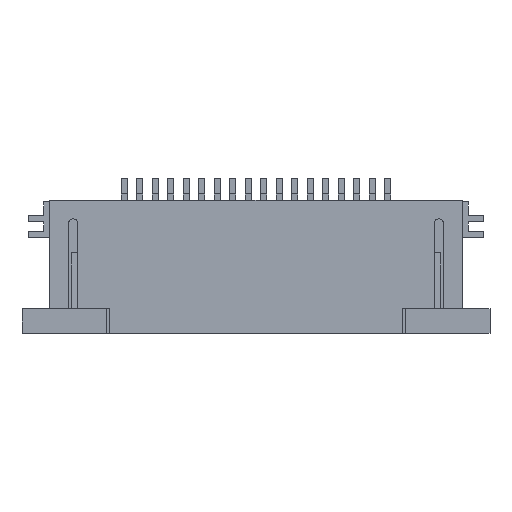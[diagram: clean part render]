
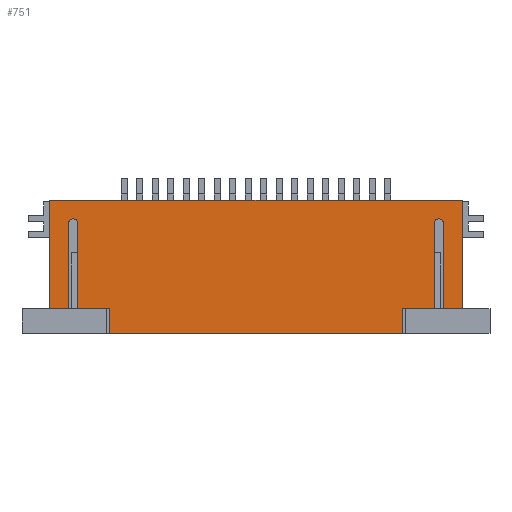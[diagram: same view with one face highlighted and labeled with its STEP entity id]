
A CAD part, top view. The second image highlights one B-rep face of the part: STEP entity #751.
In plain terms, the highlighted planar face has unit normal (0, 0, 1).
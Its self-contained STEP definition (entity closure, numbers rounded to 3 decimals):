
#114=CIRCLE('',#9331,0.15);
#115=CIRCLE('',#9332,0.15);
#312=FACE_OUTER_BOUND('',#1616,.T.);
#751=ADVANCED_FACE('',(#312),#1171,.T.);
#1171=PLANE('',#9333);
#1616=EDGE_LOOP('',(#3052,#3053,#3054,#3055,#3056,#3057,#3058,#3059,#3060,
#3061,#3062,#3063,#3064,#3065,#3066,#3067,#3068,#3069));
#3052=ORIENTED_EDGE('',*,*,#5857,.F.);
#3053=ORIENTED_EDGE('',*,*,#6111,.F.);
#3054=ORIENTED_EDGE('',*,*,#6112,.F.);
#3055=ORIENTED_EDGE('',*,*,#5386,.F.);
#3056=ORIENTED_EDGE('',*,*,#5936,.F.);
#3057=ORIENTED_EDGE('',*,*,#6113,.T.);
#3058=ORIENTED_EDGE('',*,*,#5927,.T.);
#3059=ORIENTED_EDGE('',*,*,#5445,.F.);
#3060=ORIENTED_EDGE('',*,*,#6114,.F.);
#3061=ORIENTED_EDGE('',*,*,#6115,.F.);
#3062=ORIENTED_EDGE('',*,*,#6116,.F.);
#3063=ORIENTED_EDGE('',*,*,#5424,.F.);
#3064=ORIENTED_EDGE('',*,*,#5938,.F.);
#3065=ORIENTED_EDGE('',*,*,#6117,.T.);
#3066=ORIENTED_EDGE('',*,*,#6118,.T.);
#3067=ORIENTED_EDGE('',*,*,#6119,.T.);
#3068=ORIENTED_EDGE('',*,*,#5942,.F.);
#3069=ORIENTED_EDGE('',*,*,#5393,.F.);
#4520=VERTEX_POINT('',#11920);
#4521=VERTEX_POINT('',#11922);
#4526=VERTEX_POINT('',#11933);
#4528=VERTEX_POINT('',#11936);
#4558=VERTEX_POINT('',#12000);
#4559=VERTEX_POINT('',#12001);
#4579=VERTEX_POINT('',#12041);
#4580=VERTEX_POINT('',#12043);
#4848=VERTEX_POINT('',#12856);
#4901=VERTEX_POINT('',#12993);
#4908=VERTEX_POINT('',#13009);
#4909=VERTEX_POINT('',#13014);
#4912=VERTEX_POINT('',#13022);
#5049=VERTEX_POINT('',#13335);
#5050=VERTEX_POINT('',#13339);
#5051=VERTEX_POINT('',#13341);
#5052=VERTEX_POINT('',#13344);
#5053=VERTEX_POINT('',#13346);
#5386=EDGE_CURVE('',#4520,#4521,#6688,.T.);
#5393=EDGE_CURVE('',#4526,#4528,#6695,.T.);
#5424=EDGE_CURVE('',#4558,#4559,#6726,.T.);
#5445=EDGE_CURVE('',#4579,#4580,#6747,.T.);
#5857=EDGE_CURVE('',#4848,#4526,#7123,.T.);
#5927=EDGE_CURVE('',#4901,#4580,#7191,.T.);
#5936=EDGE_CURVE('',#4908,#4520,#7200,.T.);
#5938=EDGE_CURVE('',#4909,#4558,#7202,.T.);
#5942=EDGE_CURVE('',#4528,#4912,#7206,.T.);
#6111=EDGE_CURVE('',#5049,#4848,#114,.T.);
#6112=EDGE_CURVE('',#4521,#5049,#7373,.T.);
#6113=EDGE_CURVE('',#4908,#4901,#7374,.T.);
#6114=EDGE_CURVE('',#5050,#4579,#7375,.T.);
#6115=EDGE_CURVE('',#5051,#5050,#115,.T.);
#6116=EDGE_CURVE('',#4559,#5051,#7376,.T.);
#6117=EDGE_CURVE('',#4909,#5052,#7377,.T.);
#6118=EDGE_CURVE('',#5052,#5053,#7378,.T.);
#6119=EDGE_CURVE('',#5053,#4912,#7379,.T.);
#6688=LINE('',#11921,#7910);
#6695=LINE('',#11935,#7917);
#6726=LINE('',#11999,#7948);
#6747=LINE('',#12042,#7969);
#7123=LINE('',#12857,#8345);
#7191=LINE('',#12992,#8413);
#7200=LINE('',#13010,#8422);
#7202=LINE('',#13013,#8424);
#7206=LINE('',#13021,#8428);
#7373=LINE('',#13336,#8595);
#7374=LINE('',#13337,#8596);
#7375=LINE('',#13338,#8597);
#7376=LINE('',#13342,#8598);
#7377=LINE('',#13343,#8599);
#7378=LINE('',#13345,#8600);
#7379=LINE('',#13347,#8601);
#7910=VECTOR('',#9655,1.);
#7917=VECTOR('',#9662,1.);
#7948=VECTOR('',#9699,1.);
#7969=VECTOR('',#9720,1.);
#8345=VECTOR('',#10436,1.);
#8413=VECTOR('',#10534,1.);
#8422=VECTOR('',#10545,1.);
#8424=VECTOR('',#10549,1.);
#8428=VECTOR('',#10555,1.);
#8595=VECTOR('',#10742,1.);
#8596=VECTOR('',#10743,1.);
#8597=VECTOR('',#10744,1.);
#8598=VECTOR('',#10747,1.);
#8599=VECTOR('',#10748,1.);
#8600=VECTOR('',#10749,1.);
#8601=VECTOR('',#10750,1.);
#9331=AXIS2_PLACEMENT_3D('',#13334,#10740,#10741);
#9332=AXIS2_PLACEMENT_3D('',#13340,#10745,#10746);
#9333=AXIS2_PLACEMENT_3D('',#13348,#10751,#10752);
#9655=DIRECTION('',(-1.,0.,0.));
#9662=DIRECTION('',(-1.,0.,0.));
#9699=DIRECTION('',(-1.,0.,0.));
#9720=DIRECTION('',(-1.,0.,0.));
#10436=DIRECTION('',(0.,-1.,0.));
#10534=DIRECTION('',(0.,-1.,0.));
#10545=DIRECTION('',(0.,-1.,0.));
#10549=DIRECTION('',(-1.,0.,0.));
#10555=DIRECTION('',(-1.,0.,0.));
#10740=DIRECTION('',(0.,0.,1.));
#10741=DIRECTION('',(1.,0.,0.));
#10742=DIRECTION('',(0.,1.,0.));
#10743=DIRECTION('',(-1.,0.,0.));
#10744=DIRECTION('',(0.,-1.,0.));
#10745=DIRECTION('',(0.,0.,1.));
#10746=DIRECTION('',(1.,0.,0.));
#10747=DIRECTION('',(0.,1.,0.));
#10748=DIRECTION('',(0.,-1.,0.));
#10749=DIRECTION('',(1.,0.,0.));
#10750=DIRECTION('',(0.,1.,0.));
#10751=DIRECTION('',(0.,0.,1.));
#10752=DIRECTION('',(1.,0.,0.));
#11920=CARTESIAN_POINT('',(6.65,0.,1.9));
#11921=CARTESIAN_POINT('',(6.65,0.,1.9));
#11922=CARTESIAN_POINT('',(6.05,0.,1.9));
#11933=CARTESIAN_POINT('',(5.75,0.,1.9));
#11935=CARTESIAN_POINT('',(6.65,0.,1.9));
#11936=CARTESIAN_POINT('',(4.825,0.,1.9));
#11999=CARTESIAN_POINT('',(6.65,0.,1.9));
#12000=CARTESIAN_POINT('',(-4.825,0.,1.9));
#12001=CARTESIAN_POINT('',(-5.75,0.,1.9));
#12041=CARTESIAN_POINT('',(-6.05,0.,1.9));
#12042=CARTESIAN_POINT('',(6.65,0.,1.9));
#12043=CARTESIAN_POINT('',(-6.65,0.,1.9));
#12856=CARTESIAN_POINT('',(5.75,2.75,1.9));
#12857=CARTESIAN_POINT('',(5.75,2.75,1.9));
#12992=CARTESIAN_POINT('',(-6.65,3.5,1.9));
#12993=CARTESIAN_POINT('',(-6.65,3.5,1.9));
#13009=CARTESIAN_POINT('',(6.65,3.5,1.9));
#13010=CARTESIAN_POINT('',(6.65,3.5,1.9));
#13013=CARTESIAN_POINT('',(6.65,0.,1.9));
#13014=CARTESIAN_POINT('',(-4.717,0.,1.9));
#13021=CARTESIAN_POINT('',(6.65,0.,1.9));
#13022=CARTESIAN_POINT('',(4.717,0.,1.9));
#13334=CARTESIAN_POINT('',(5.9,2.75,1.9));
#13335=CARTESIAN_POINT('',(6.05,2.75,1.9));
#13336=CARTESIAN_POINT('',(6.05,0.,1.9));
#13337=CARTESIAN_POINT('',(6.65,3.5,1.9));
#13338=CARTESIAN_POINT('',(-6.05,2.75,1.9));
#13339=CARTESIAN_POINT('',(-6.05,2.75,1.9));
#13340=CARTESIAN_POINT('',(-5.9,2.75,1.9));
#13341=CARTESIAN_POINT('',(-5.75,2.75,1.9));
#13342=CARTESIAN_POINT('',(-5.75,0.,1.9));
#13343=CARTESIAN_POINT('',(-4.717,0.,1.9));
#13344=CARTESIAN_POINT('',(-4.717,-0.8,1.9));
#13345=CARTESIAN_POINT('',(-4.717,-0.8,1.9));
#13346=CARTESIAN_POINT('',(4.717,-0.8,1.9));
#13347=CARTESIAN_POINT('',(4.717,-0.8,1.9));
#13348=CARTESIAN_POINT('',(6.65,3.5,1.9));
